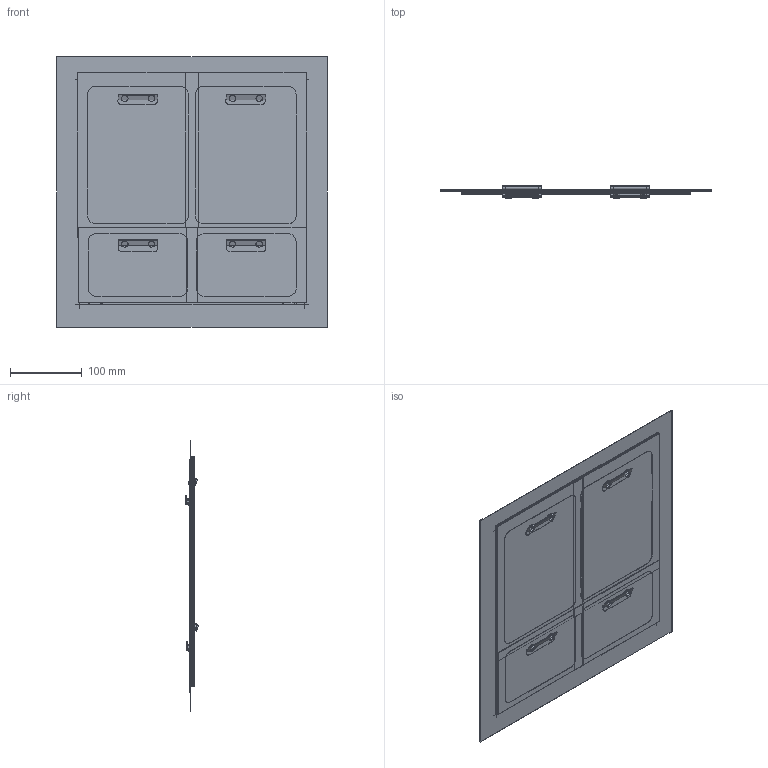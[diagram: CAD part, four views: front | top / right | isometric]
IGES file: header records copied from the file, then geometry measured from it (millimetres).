
Global section: file name: C:\Users\utente\Desktop\3d sito\FORMOSA\FORMOSA.igs; native system: Rhinoceros ( Mar  9 2011 ); preprocessor: Trout Lake IGES 012 Mar  9 2011; date: 170522.101732; units: millimetre
Bounding box: 376.8 x 18.89 x 376.8 mm (x, y, z)
Surface area: 2259387.8 mm2 (no closed solid volume)
Topology: 0 solids, 0 shells, 359 faces, 2356 edges, 3076 vertices
Faces by surface type: bspline 359
